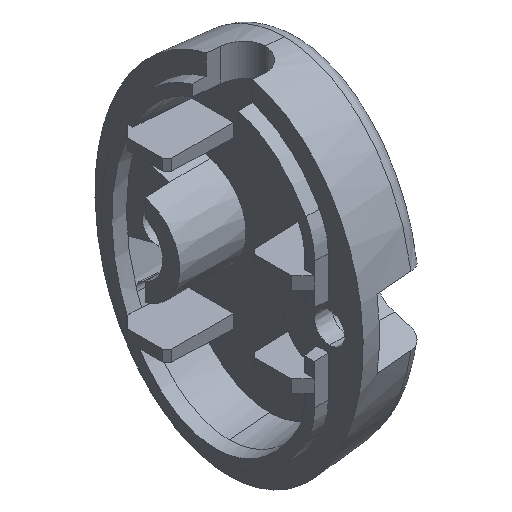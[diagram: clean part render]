
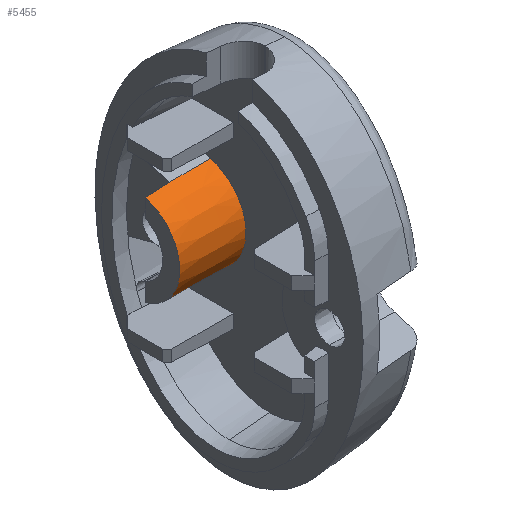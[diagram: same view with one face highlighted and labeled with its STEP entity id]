
A CAD part, isometric view. The second image highlights one B-rep face of the part: STEP entity #5455.
In plain terms, the highlighted conical face has half-angle 1 degrees and reference radius 5.4 mm.
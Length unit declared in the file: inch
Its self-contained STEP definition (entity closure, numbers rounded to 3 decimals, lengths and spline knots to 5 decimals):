
#218 = VERTEX_POINT ( 'NONE', #5661 ) ;
#471 = VERTEX_POINT ( 'NONE', #6183 ) ;
#491 = AXIS2_PLACEMENT_3D ( 'NONE', #4413, #2856, #4446 ) ;
#520 = VERTEX_POINT ( 'NONE', #2230 ) ;
#700 = DIRECTION ( 'NONE',  ( 0., 0., -1. ) ) ;
#755 = DIRECTION ( 'NONE',  ( 0., 0., -1. ) ) ;
#967 = B_SPLINE_CURVE_WITH_KNOTS ( 'NONE', 3,
 ( #2765, #3885, #6107, #5612 ),
 .UNSPECIFIED., .F., .F.,
 ( 4, 4 ),
 ( 0.01105, 0.01385 ),
 .UNSPECIFIED. ) ;
#1198 = ORIENTED_EDGE ( 'NONE', *, *, #6184, .T. ) ;
#1216 = DIRECTION ( 'NONE',  ( 1., 0., 0. ) ) ;
#1328 = EDGE_CURVE ( 'NONE', #5849, #4410, #967, .T. ) ;
#1441 = CARTESIAN_POINT ( 'NONE',  ( 1.80958, -3.12654, -0.2013 ) ) ;
#1455 = EDGE_CURVE ( 'NONE', #4410, #2109, #6651, .T. ) ;
#1474 = CARTESIAN_POINT ( 'NONE',  ( 1.88307, -3.12525, -0.20298 ) ) ;
#1590 = AXIS2_PLACEMENT_3D ( 'NONE', #4864, #1216, #700 ) ;
#1753 = ORIENTED_EDGE ( 'NONE', *, *, #1455, .F. ) ;
#1891 = FACE_OUTER_BOUND ( 'NONE', #4717, .T. ) ;
#1910 = AXIS2_PLACEMENT_3D ( 'NONE', #5422, #4332, #755 ) ;
#1918 = CIRCLE ( 'NONE', #1590, 0.21323 ) ;
#1963 = CARTESIAN_POINT ( 'NONE',  ( 2.02309, -3.12589, 0.20534 ) ) ;
#2109 = VERTEX_POINT ( 'NONE', #4058 ) ;
#2230 = CARTESIAN_POINT ( 'NONE',  ( 2.06024, -3.12605, -0.20597 ) ) ;
#2560 = CARTESIAN_POINT ( 'NONE',  ( 1.77283, -3.12718, 0.20046 ) ) ;
#2704 = LINE ( 'NONE', #4788, #4862 ) ;
#2743 = ORIENTED_EDGE ( 'NONE', *, *, #2957, .T. ) ;
#2765 = CARTESIAN_POINT ( 'NONE',  ( 1.77283, -3.12718, 0.20046 ) ) ;
#2856 = DIRECTION ( 'NONE',  ( 1., 0., 0. ) ) ;
#2957 = EDGE_CURVE ( 'NONE', #471, #218, #3491, .T. ) ;
#3013 = CARTESIAN_POINT ( 'NONE',  ( 1.77283, -3.12718, -0.20046 ) ) ;
#3186 = DIRECTION ( 'NONE',  ( 1., -0.005, -0.017 ) ) ;
#3250 = EDGE_CURVE ( 'NONE', #2109, #520, #1918, .T. ) ;
#3491 = B_SPLINE_CURVE_WITH_KNOTS ( 'NONE', 3,
 ( #3013, #1441, #5075, #1474 ),
 .UNSPECIFIED., .F., .F.,
 ( 4, 4 ),
 ( 0.01105, 0.01385 ),
 .UNSPECIFIED. ) ;
#3885 = CARTESIAN_POINT ( 'NONE',  ( 1.80958, -3.12654, 0.2013 ) ) ;
#3984 = VECTOR ( 'NONE', #4036, 39.37008 ) ;
#4021 = ORIENTED_EDGE ( 'NONE', *, *, #3250, .F. ) ;
#4036 = DIRECTION ( 'NONE',  ( 1., -0.005, 0.017 ) ) ;
#4058 = CARTESIAN_POINT ( 'NONE',  ( 2.06024, -3.12605, 0.20597 ) ) ;
#4092 = EDGE_CURVE ( 'NONE', #218, #520, #2704, .T. ) ;
#4304 = CONICAL_SURFACE ( 'NONE', #491, 0.21258, 0.017 ) ;
#4332 = DIRECTION ( 'NONE',  ( 1., 0., 0. ) ) ;
#4410 = VERTEX_POINT ( 'NONE', #6182 ) ;
#4413 = CARTESIAN_POINT ( 'NONE',  ( 2.02309, -3.07087, 0. ) ) ;
#4446 = DIRECTION ( 'NONE',  ( 0., 0., -1. ) ) ;
#4717 = EDGE_LOOP ( 'NONE', ( #4021, #1753, #5367, #1198, #2743, #6367 ) ) ;
#4788 = CARTESIAN_POINT ( 'NONE',  ( 2.02309, -3.12589, -0.20534 ) ) ;
#4862 = VECTOR ( 'NONE', #3186, 39.37008 ) ;
#4864 = CARTESIAN_POINT ( 'NONE',  ( 2.06024, -3.07087, 0. ) ) ;
#5075 = CARTESIAN_POINT ( 'NONE',  ( 1.84633, -3.1259, -0.20214 ) ) ;
#5367 = ORIENTED_EDGE ( 'NONE', *, *, #1328, .F. ) ;
#5422 = CARTESIAN_POINT ( 'NONE',  ( 1.77283, -3.07087, 0. ) ) ;
#5455 = ADVANCED_FACE ( 'NONE', ( #1891 ), #4304, .T. ) ;
#5612 = CARTESIAN_POINT ( 'NONE',  ( 1.88307, -3.12525, 0.20298 ) ) ;
#5661 = CARTESIAN_POINT ( 'NONE',  ( 1.88307, -3.12525, -0.20298 ) ) ;
#5849 = VERTEX_POINT ( 'NONE', #2560 ) ;
#6107 = CARTESIAN_POINT ( 'NONE',  ( 1.84633, -3.1259, 0.20214 ) ) ;
#6182 = CARTESIAN_POINT ( 'NONE',  ( 1.88307, -3.12525, 0.20298 ) ) ;
#6183 = CARTESIAN_POINT ( 'NONE',  ( 1.77283, -3.12718, -0.20046 ) ) ;
#6184 = EDGE_CURVE ( 'NONE', #5849, #471, #6724, .T. ) ;
#6367 = ORIENTED_EDGE ( 'NONE', *, *, #4092, .T. ) ;
#6651 = LINE ( 'NONE', #1963, #3984 ) ;
#6724 = CIRCLE ( 'NONE', #1910, 0.20822 ) ;
